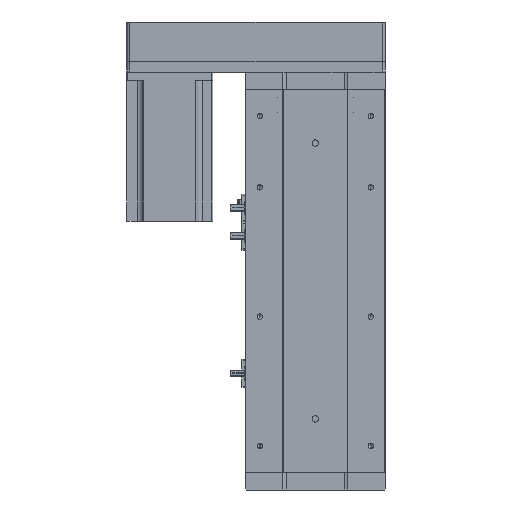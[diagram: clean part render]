
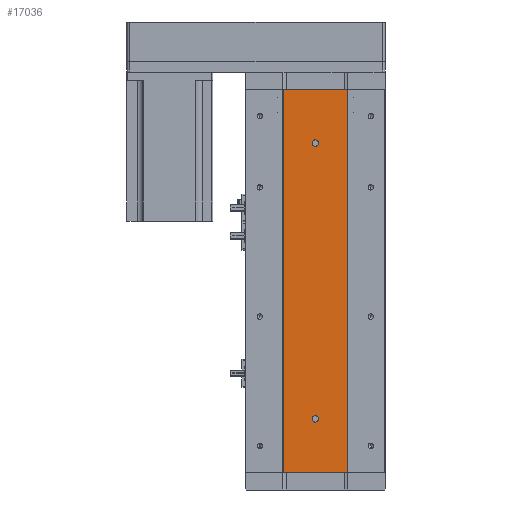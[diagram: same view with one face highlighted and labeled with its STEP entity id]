
A CAD part, left-side view. The second image highlights one B-rep face of the part: STEP entity #17036.
In plain terms, the highlighted planar face has unit normal (-1, 0, 0).
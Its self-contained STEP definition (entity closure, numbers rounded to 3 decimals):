
#151 = EDGE_CURVE ( 'NONE', #22522, #9264, #25574, .T. ) ;
#325 = DIRECTION ( 'NONE',  ( -1., 0., 0. ) ) ;
#563 = CARTESIAN_POINT ( 'NONE',  ( -24.994, 29.785, 356. ) ) ;
#1500 = DIRECTION ( 'NONE',  ( -1., 0., 0. ) ) ;
#1508 = CARTESIAN_POINT ( 'NONE',  ( -24.994, -29.785, 356. ) ) ;
#1692 = CARTESIAN_POINT ( 'NONE',  ( -24.994, -29.785, 356. ) ) ;
#1818 = EDGE_CURVE ( 'NONE', #35520, #39670, #38650, .T. ) ;
#1835 = ORIENTED_EDGE ( 'NONE', *, *, #151, .F. ) ;
#2951 = ORIENTED_EDGE ( 'NONE', *, *, #18558, .F. ) ;
#3483 = VERTEX_POINT ( 'NONE', #7309 ) ;
#3598 = CARTESIAN_POINT ( 'NONE',  ( -24.994, 0., 47. ) ) ;
#4073 = ORIENTED_EDGE ( 'NONE', *, *, #1818, .T. ) ;
#4625 = ORIENTED_EDGE ( 'NONE', *, *, #17267, .F. ) ;
#4920 = EDGE_LOOP ( 'NONE', ( #1835, #28114 ) ) ;
#5503 = ORIENTED_EDGE ( 'NONE', *, *, #21631, .F. ) ;
#5646 = CARTESIAN_POINT ( 'NONE',  ( -24.994, 29.785, 356. ) ) ;
#6784 = CARTESIAN_POINT ( 'NONE',  ( -24.994, 29.785, 0. ) ) ;
#7309 = CARTESIAN_POINT ( 'NONE',  ( -24.994, 0., 53. ) ) ;
#8954 = DIRECTION ( 'NONE',  ( 0., 0., -1. ) ) ;
#9264 = VERTEX_POINT ( 'NONE', #41121 ) ;
#9916 = VERTEX_POINT ( 'NONE', #1692 ) ;
#10855 = DIRECTION ( 'NONE',  ( -1., 0., 0. ) ) ;
#11818 = LINE ( 'NONE', #30061, #35283 ) ;
#12144 = EDGE_CURVE ( 'NONE', #9264, #22522, #42684, .T. ) ;
#12259 = AXIS2_PLACEMENT_3D ( 'NONE', #20240, #325, #23576 ) ;
#13303 = CARTESIAN_POINT ( 'NONE',  ( -24.994, 29.785, 356. ) ) ;
#14122 = EDGE_CURVE ( 'NONE', #38483, #35520, #11818, .T. ) ;
#16381 = CARTESIAN_POINT ( 'NONE',  ( -24.994, 0., 309. ) ) ;
#16759 = DIRECTION ( 'NONE',  ( 0., 0., -1. ) ) ;
#17036 = ADVANCED_FACE ( 'NONE', ( #23761, #40542, #41581 ), #32105, .F. ) ;
#17267 = EDGE_CURVE ( 'NONE', #38483, #9916, #38509, .T. ) ;
#18211 = DIRECTION ( 'NONE',  ( -1., 0., 0. ) ) ;
#18558 = EDGE_CURVE ( 'NONE', #9916, #39670, #19998, .T. ) ;
#18956 = VECTOR ( 'NONE', #21427, 1000. ) ;
#19520 = EDGE_LOOP ( 'NONE', ( #4073, #2951, #4625, #27114 ) ) ;
#19998 = LINE ( 'NONE', #1508, #18956 ) ;
#20240 = CARTESIAN_POINT ( 'NONE',  ( -24.994, 0., 306. ) ) ;
#20824 = AXIS2_PLACEMENT_3D ( 'NONE', #5646, #28877, #8954 ) ;
#20844 = VECTOR ( 'NONE', #30048, 1000. ) ;
#20906 = AXIS2_PLACEMENT_3D ( 'NONE', #38253, #18211, #41622 ) ;
#21418 = CARTESIAN_POINT ( 'NONE',  ( -24.994, 0., 50. ) ) ;
#21427 = DIRECTION ( 'NONE',  ( 0., 0., -1. ) ) ;
#21631 = EDGE_CURVE ( 'NONE', #3483, #27961, #31897, .T. ) ;
#22522 = VERTEX_POINT ( 'NONE', #16381 ) ;
#23576 = DIRECTION ( 'NONE',  ( 0., 0., 1. ) ) ;
#23761 = FACE_BOUND ( 'NONE', #4920, .T. ) ;
#24424 = AXIS2_PLACEMENT_3D ( 'NONE', #30808, #10855, #34154 ) ;
#24759 = DIRECTION ( 'NONE',  ( 0., 0., 1. ) ) ;
#25565 = ORIENTED_EDGE ( 'NONE', *, *, #42815, .F. ) ;
#25574 = CIRCLE ( 'NONE', #24424, 3. ) ;
#27114 = ORIENTED_EDGE ( 'NONE', *, *, #14122, .T. ) ;
#27961 = VERTEX_POINT ( 'NONE', #3598 ) ;
#28114 = ORIENTED_EDGE ( 'NONE', *, *, #12144, .F. ) ;
#28877 = DIRECTION ( 'NONE',  ( 1., 0., 0. ) ) ;
#29251 = CARTESIAN_POINT ( 'NONE',  ( -24.994, -29.785, 0. ) ) ;
#29588 = VECTOR ( 'NONE', #40163, 1000. ) ;
#30048 = DIRECTION ( 'NONE',  ( 0., -1., 0. ) ) ;
#30061 = CARTESIAN_POINT ( 'NONE',  ( -24.994, 29.785, 356. ) ) ;
#30808 = CARTESIAN_POINT ( 'NONE',  ( -24.994, 0., 306. ) ) ;
#31011 = AXIS2_PLACEMENT_3D ( 'NONE', #21418, #1500, #24759 ) ;
#31897 = CIRCLE ( 'NONE', #31011, 3. ) ;
#32105 = PLANE ( 'NONE',  #20824 ) ;
#34154 = DIRECTION ( 'NONE',  ( 0., 0., 1. ) ) ;
#35283 = VECTOR ( 'NONE', #16759, 1000. ) ;
#35520 = VERTEX_POINT ( 'NONE', #35851 ) ;
#35851 = CARTESIAN_POINT ( 'NONE',  ( -24.994, 29.785, 0. ) ) ;
#36926 = CIRCLE ( 'NONE', #20906, 3. ) ;
#38253 = CARTESIAN_POINT ( 'NONE',  ( -24.994, 0., 50. ) ) ;
#38483 = VERTEX_POINT ( 'NONE', #563 ) ;
#38509 = LINE ( 'NONE', #13303, #29588 ) ;
#38650 = LINE ( 'NONE', #6784, #20844 ) ;
#39670 = VERTEX_POINT ( 'NONE', #29251 ) ;
#39765 = EDGE_LOOP ( 'NONE', ( #5503, #25565 ) ) ;
#40163 = DIRECTION ( 'NONE',  ( 0., -1., 0. ) ) ;
#40542 = FACE_BOUND ( 'NONE', #39765, .T. ) ;
#41121 = CARTESIAN_POINT ( 'NONE',  ( -24.994, 0., 303. ) ) ;
#41581 = FACE_OUTER_BOUND ( 'NONE', #19520, .T. ) ;
#41622 = DIRECTION ( 'NONE',  ( 0., 0., 1. ) ) ;
#42684 = CIRCLE ( 'NONE', #12259, 3. ) ;
#42815 = EDGE_CURVE ( 'NONE', #27961, #3483, #36926, .T. ) ;
